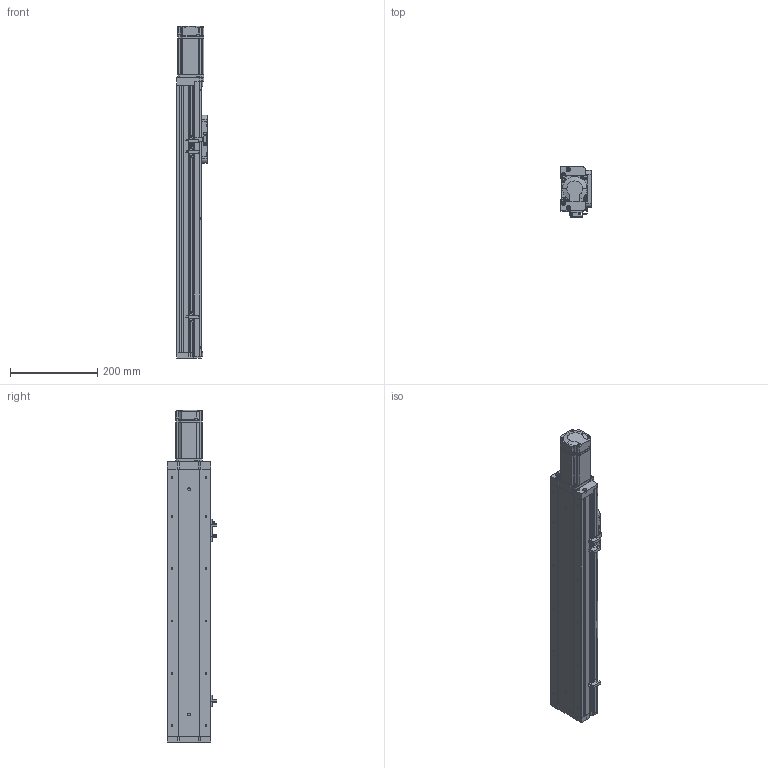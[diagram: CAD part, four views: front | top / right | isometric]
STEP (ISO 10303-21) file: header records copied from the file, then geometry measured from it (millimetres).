
FILE_DESCRIPTION (( 'STEP AP214' ), '1' );
FILE_NAME ('KSD100S-S400-MN-CR .STEP', '2019-09-02T09:09:59', ( '微软用户' ), ( '微软中国' ), 'SwSTEP 2.0', 'SolidWorks 2014', '' );
FILE_SCHEMA (( 'AUTOMOTIVE_DESIGN' ));
Length unit declared in the file: millimetre
Products named in the file (12): MHMD042G1CA_2_03; U倰嫖萇EEㄜSX672; 感应片100宽全封闭; 100宽马达安装板全封闭不带电机座; 100宽端板全封闭; 100宽滚珠螺姆安装板1防护罩; 100宽滚珠螺姆安装板1; 100宽盖板压板不带电机座; 100宽盖板400行程不带电机座; 100宽侧板400行程不带电机座; 100宽底板全封闭400行程不带电机座; KSD100S-S400-MN-CR 
Assembly tree (15 placements, depth 2):
  KSD100S-S400-MN-CR 
    100宽底板全封闭400行程不带电机座
    100宽侧板400行程不带电机座  x2
    100宽盖板400行程不带电机座
    100宽盖板压板不带电机座  x2
    100宽滚珠螺姆安装板1
    100宽滚珠螺姆安装板1防护罩
    100宽端板全封闭
    100宽马达安装板全封闭不带电机座
    感应片100宽全封闭
    U倰嫖萇EEㄜSX672  x3
    MHMD042G1CA_2_03
Bounding box: 70 x 113.7 x 760.5 mm (x, y, z)
Volume: 1322027.2 mm3; surface area: 594133.7 mm2
Topology: 14 solids, 15 shells, 1444 faces, 4044 edges, 2598 vertices
Faces by surface type: plane 652, cylinder 589, cone 185, bspline 18
Entity records: 49176 total; most frequent: CARTESIAN_POINT 7607, DIRECTION 6737, ORIENTED_EDGE 6292, EDGE_CURVE 3218, AXIS2_PLACEMENT_3D 2372, VERTEX_POINT 2136, LINE 1993, VECTOR 1993
